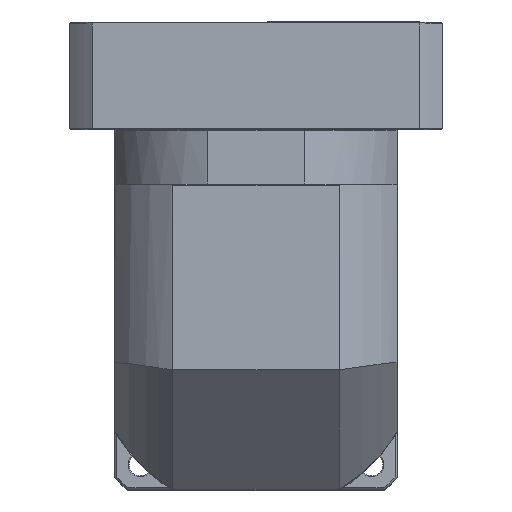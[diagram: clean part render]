
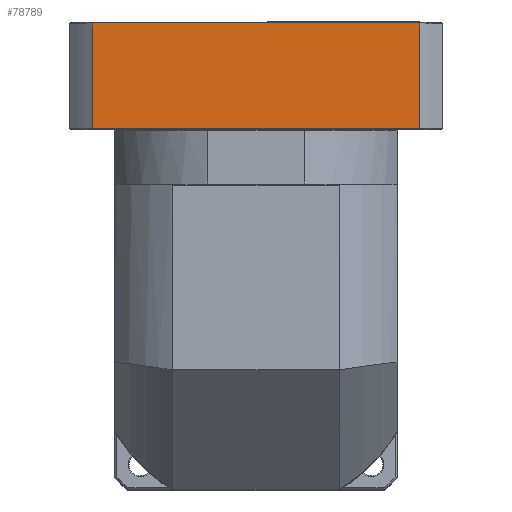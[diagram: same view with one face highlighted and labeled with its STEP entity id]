
A CAD part, top view. The second image highlights one B-rep face of the part: STEP entity #78789.
In plain terms, the highlighted planar face has unit normal (0, 0, 1).
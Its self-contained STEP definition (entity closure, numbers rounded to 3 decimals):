
#764 = VECTOR ( 'NONE', #99404, 1000. ) ;
#5427 = VERTEX_POINT ( 'NONE', #21650 ) ;
#6097 = ORIENTED_EDGE ( 'NONE', *, *, #106200, .F. ) ;
#14926 = DIRECTION ( 'NONE',  ( 0., 0., -1. ) ) ;
#15093 = CARTESIAN_POINT ( 'NONE',  ( -16.145, 223.02, 114.223 ) ) ;
#21650 = CARTESIAN_POINT ( 'NONE',  ( -192.541, 223.02, 114.223 ) ) ;
#26032 = AXIS2_PLACEMENT_3D ( 'NONE', #58457, #14926, #122383 ) ;
#26244 = DIRECTION ( 'NONE',  ( 1., 0., 0. ) ) ;
#28293 = DIRECTION ( 'NONE',  ( 1., 0., 0. ) ) ;
#33765 = LINE ( 'NONE', #114853, #90087 ) ;
#34639 = ORIENTED_EDGE ( 'NONE', *, *, #129944, .F. ) ;
#38131 = VECTOR ( 'NONE', #104615, 1000. ) ;
#38208 = CARTESIAN_POINT ( 'NONE',  ( -27.75, 223.02, 114.223 ) ) ;
#45051 = ORIENTED_EDGE ( 'NONE', *, *, #116879, .F. ) ;
#53836 = LINE ( 'NONE', #121637, #764 ) ;
#57273 = ORIENTED_EDGE ( 'NONE', *, *, #59456, .T. ) ;
#58457 = CARTESIAN_POINT ( 'NONE',  ( -16.145, 223.52, 114.223 ) ) ;
#59456 = EDGE_CURVE ( 'NONE', #101845, #70265, #33765, .T. ) ;
#62540 = CARTESIAN_POINT ( 'NONE',  ( -27.75, -187.569, 114.223 ) ) ;
#70265 = VERTEX_POINT ( 'NONE', #92432 ) ;
#77488 = FACE_OUTER_BOUND ( 'NONE', #101801, .T. ) ;
#78789 = ADVANCED_FACE ( 'NONE', ( #77488 ), #132609, .F. ) ;
#90087 = VECTOR ( 'NONE', #28293, 1000. ) ;
#92432 = CARTESIAN_POINT ( 'NONE',  ( -27.75, 170.02, 114.223 ) ) ;
#98037 = LINE ( 'NONE', #15093, #121354 ) ;
#99404 = DIRECTION ( 'NONE',  ( 0., 1., 0. ) ) ;
#101801 = EDGE_LOOP ( 'NONE', ( #45051, #57273, #6097, #34639 ) ) ;
#101845 = VERTEX_POINT ( 'NONE', #107060 ) ;
#104615 = DIRECTION ( 'NONE',  ( 0., -1., 0. ) ) ;
#106200 = EDGE_CURVE ( 'NONE', #116973, #70265, #114319, .T. ) ;
#107060 = CARTESIAN_POINT ( 'NONE',  ( -192.541, 170.02, 114.223 ) ) ;
#114319 = LINE ( 'NONE', #62540, #38131 ) ;
#114853 = CARTESIAN_POINT ( 'NONE',  ( -16.145, 170.02, 114.223 ) ) ;
#116879 = EDGE_CURVE ( 'NONE', #101845, #5427, #53836, .T. ) ;
#116973 = VERTEX_POINT ( 'NONE', #38208 ) ;
#121354 = VECTOR ( 'NONE', #26244, 1000. ) ;
#121637 = CARTESIAN_POINT ( 'NONE',  ( -192.541, 223.52, 114.223 ) ) ;
#122383 = DIRECTION ( 'NONE',  ( 0., -1., 0. ) ) ;
#129944 = EDGE_CURVE ( 'NONE', #5427, #116973, #98037, .T. ) ;
#132609 = PLANE ( 'NONE',  #26032 ) ;
